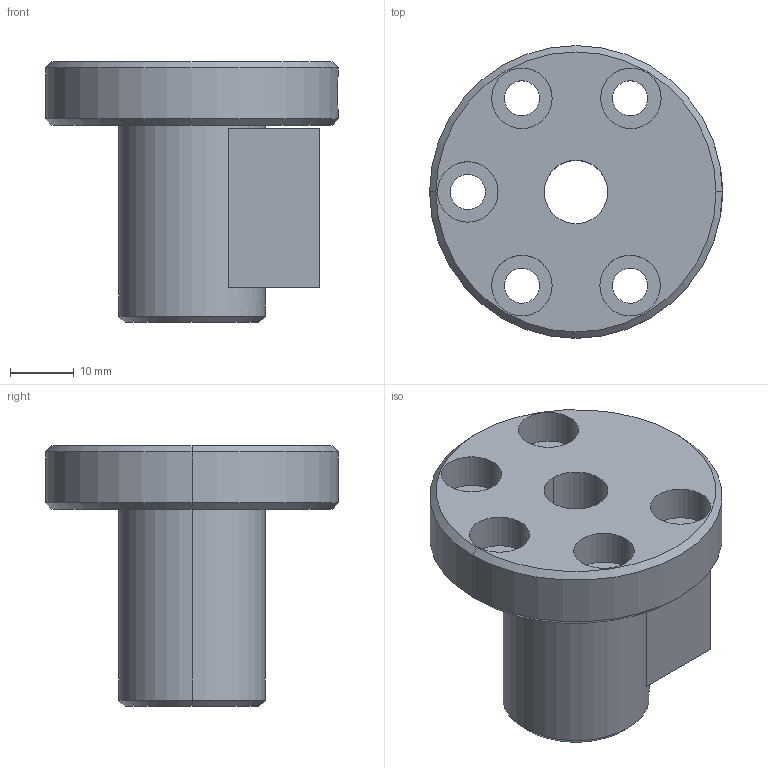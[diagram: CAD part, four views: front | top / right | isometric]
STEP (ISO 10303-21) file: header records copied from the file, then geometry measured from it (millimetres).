
FILE_DESCRIPTION((''),'2;1');
FILE_NAME('A10XM5A1','2018-09-05T14:25:50',('bryant.lin'),(''),'CREO PARAMETRIC BY PTC INC, 2018050','CREO PARAMETRIC BY PTC INC, 2018050','');
FILE_SCHEMA(('CONFIG_CONTROL_DESIGN'));
Length unit declared in the file: millimetre
Products named in the file (1): A10XM5A1
Bounding box: 46 x 46 x 41 mm (x, y, z)
Volume: 28493.7 mm3; surface area: 10063.3 mm2
Topology: 1 solids, 1 shells, 48 faces, 112 edges, 72 vertices
Faces by surface type: cylinder 28, plane 14, cone 6
Entity records: 1484 total; most frequent: DIRECTION 270, CARTESIAN_POINT 262, ORIENTED_EDGE 224, AXIS2_PLACEMENT_3D 112, EDGE_CURVE 112, VERTEX_POINT 72, EDGE_LOOP 66, CIRCLE 64
